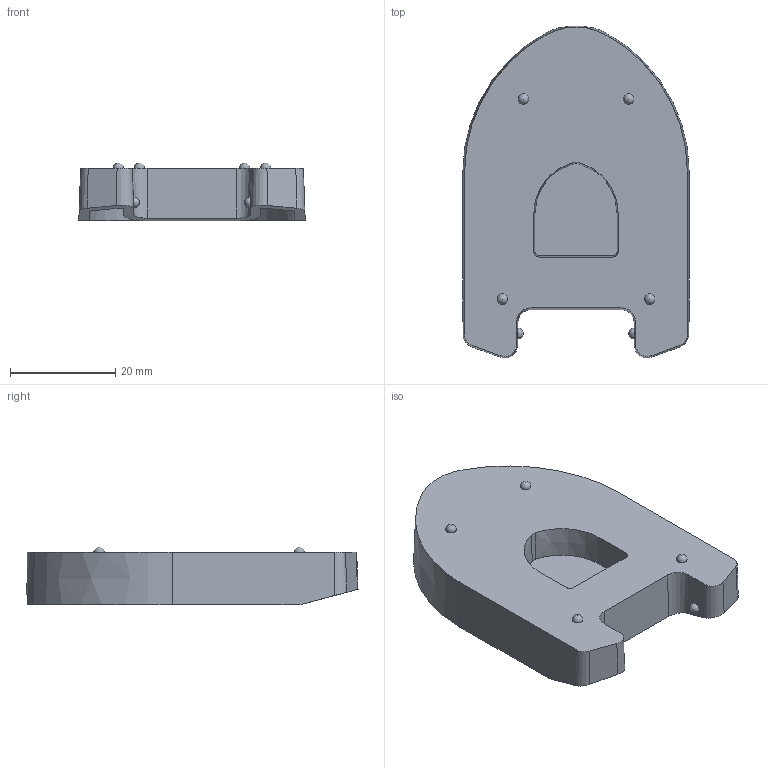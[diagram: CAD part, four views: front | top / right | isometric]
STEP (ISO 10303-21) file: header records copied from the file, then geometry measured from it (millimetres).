
FILE_DESCRIPTION(/* description */ (''),/* implementation_level */ '2;1');
FILE_NAME(/* name */ 'E:\塑料模具\现代模具制造技术\切药盒\切药盒下盖.stp',/* time_stamp */ '2021-12-02T16:03:52+08:00',/* author */ ('Administrator'),/* organization */ (''),/* preprocessor_version */ 'ST-DEVELOPER v18',/* originating_system */ 'Autodesk Inventor 2020',/* authorisation */ '');
FILE_SCHEMA (('AUTOMOTIVE_DESIGN { 1 0 10303 214 3 1 1 }'));
Length unit declared in the file: millimetre
Products named in the file (1): 下盖
Bounding box: 43 x 63.05 x 11 mm (x, y, z)
Volume: 8397.8 mm3; surface area: 8503.2 mm2
Topology: 1 solids, 1 shells, 88 faces, 242 edges, 154 vertices
Faces by surface type: plane 33, cone 28, cylinder 12, sphere 6, torus 5, bspline 4
Entity records: 3112 total; most frequent: CARTESIAN_POINT 841, DIRECTION 481, ORIENTED_EDGE 460, EDGE_CURVE 230, AXIS2_PLACEMENT_3D 180, VERTEX_POINT 154, LINE 121, VECTOR 121
